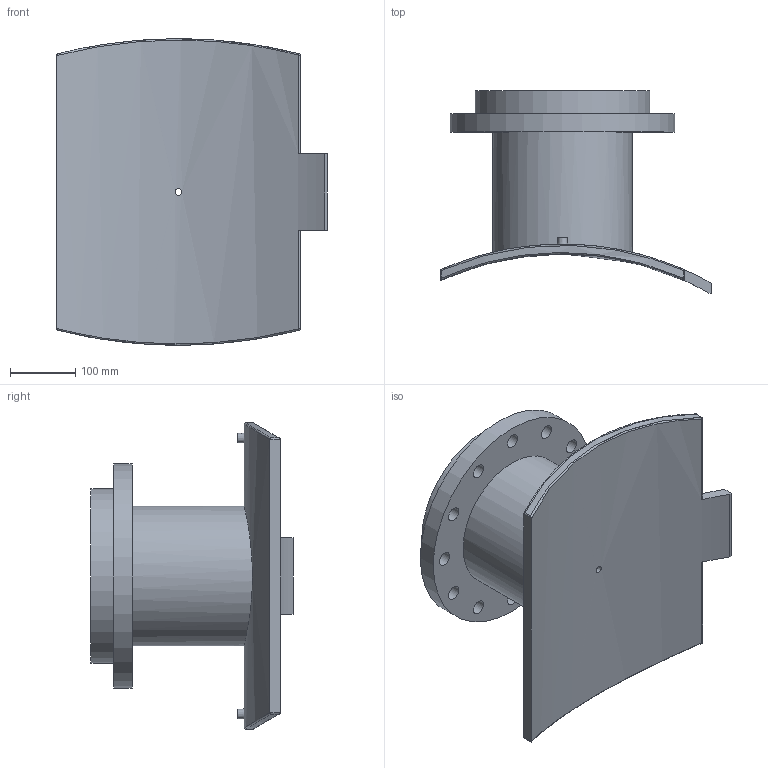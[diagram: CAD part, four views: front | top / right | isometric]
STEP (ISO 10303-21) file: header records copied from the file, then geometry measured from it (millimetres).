
FILE_DESCRIPTION(/* description */ ('PLASSON FLANGED BRANCH SADDLE 900X200'),/* implementation_level */ '2;1');
FILE_NAME(/* name */ 'C:\Dropbox\KIMPROJECTS-Inventor 2019\99-16-3568-Processing\ElectroFusion Fittings\495904_495903\stp\495903900200T.stp',/* time_stamp */ '2024-04-03T21:02:54+02:00',/* author */ ('KIM'),/* organization */ (''),/* preprocessor_version */ 'ST-DEVELOPER v17.2',/* originating_system */ 'Autodesk Inventor 2019',/* authorisation */ '');
FILE_SCHEMA (('AUTOMOTIVE_DESIGN { 1 0 10303 214 3 1 1 }'));
Length unit declared in the file: millimetre
Products named in the file (1): 495903900200T
Bounding box: 415 x 309.87 x 469.94 mm (x, y, z)
Volume: 8550442.8 mm3; surface area: 831399.9 mm2
Topology: 1 solids, 1 shells, 63 faces, 166 edges, 128 vertices
Faces by surface type: cylinder 36, plane 17, sphere 4, bspline 4, cone 2
Full cylindrical faces by diameter (mm): 4 x2, 10 x2, 10.4 x1, 16 x1, 22 x12, 163 x1, 214.4 x1, 268 x1, 344 x1
Entity records: 2618 total; most frequent: CARTESIAN_POINT 961, DIRECTION 332, ORIENTED_EDGE 304, EDGE_CURVE 152, AXIS2_PLACEMENT_3D 140, VERTEX_POINT 102, EDGE_LOOP 100, CIRCLE 80
